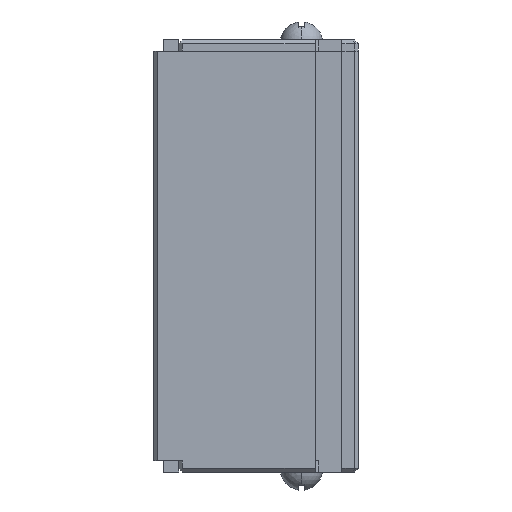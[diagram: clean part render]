
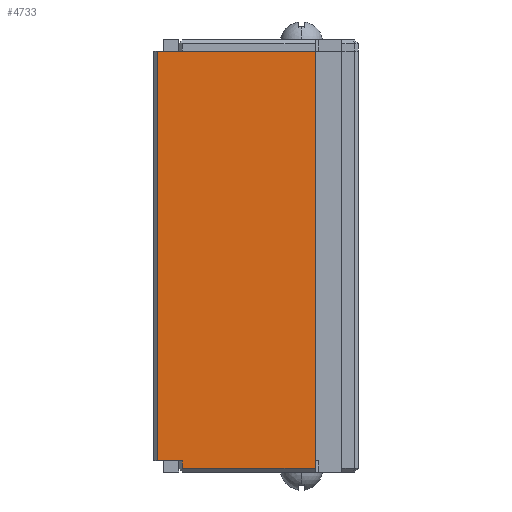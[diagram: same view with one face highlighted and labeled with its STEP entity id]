
A CAD part, left-side view. The second image highlights one B-rep face of the part: STEP entity #4733.
In plain terms, the highlighted planar face has unit normal (-1, 0, 0).
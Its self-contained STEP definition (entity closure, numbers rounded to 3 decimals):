
#513=DIRECTION('',(0.,1.,0.));
#514=VECTOR('',#513,20.8);
#515=CARTESIAN_POINT('',(-19.,-4.3,27.));
#516=LINE('',#515,#514);
#1021=DIRECTION('',(0.,-1.,0.));
#1022=VECTOR('',#1021,17.5);
#1023=CARTESIAN_POINT('',(-19.,13.2,-28.));
#1024=LINE('',#1023,#1022);
#1029=DIRECTION('',(0.,0.,1.));
#1030=VECTOR('',#1029,55.);
#1031=CARTESIAN_POINT('',(-19.,-4.3,-28.));
#1032=LINE('',#1031,#1030);
#1627=DIRECTION('',(0.,1.,0.));
#1628=VECTOR('',#1627,3.3);
#1629=CARTESIAN_POINT('',(-19.,13.2,-27.));
#1630=LINE('',#1629,#1628);
#1631=DIRECTION('',(0.,0.,-1.));
#1632=VECTOR('',#1631,1.);
#1633=CARTESIAN_POINT('',(-19.,13.2,-27.));
#1634=LINE('',#1633,#1632);
#1715=DIRECTION('',(0.,0.,-1.));
#1716=VECTOR('',#1715,54.);
#1717=CARTESIAN_POINT('',(-19.,16.5,27.));
#1718=LINE('',#1717,#1716);
#1841=CARTESIAN_POINT('',(-19.,16.5,-27.));
#1842=VERTEX_POINT('',#1841);
#1995=CARTESIAN_POINT('',(-19.,-4.3,27.));
#1996=VERTEX_POINT('',#1995);
#1997=CARTESIAN_POINT('',(-19.,16.5,27.));
#1998=VERTEX_POINT('',#1997);
#2103=CARTESIAN_POINT('',(-19.,13.2,-28.));
#2105=VERTEX_POINT('',#2103);
#2109=CARTESIAN_POINT('',(-19.,-4.3,-28.));
#2110=VERTEX_POINT('',#2109);
#2339=CARTESIAN_POINT('',(-19.,13.2,-27.));
#2340=VERTEX_POINT('',#2339);
#4718=CARTESIAN_POINT('',(-19.,16.5,-27.));
#4719=DIRECTION('',(-1.,0.,0.));
#4720=DIRECTION('',(0.,-1.,0.));
#4721=AXIS2_PLACEMENT_3D('',#4718,#4719,#4720);
#4722=PLANE('',#4721);
#4723=ORIENTED_EDGE('',*,*,#3305,.F.);
#4724=ORIENTED_EDGE('',*,*,#3291,.F.);
#4726=ORIENTED_EDGE('',*,*,#4725,.F.);
#4727=ORIENTED_EDGE('',*,*,#2454,.T.);
#4729=ORIENTED_EDGE('',*,*,#4728,.F.);
#4730=ORIENTED_EDGE('',*,*,#2839,.F.);
#4731=EDGE_LOOP('',(#4723,#4724,#4726,#4727,#4729,#4730));
#4732=FACE_OUTER_BOUND('',#4731,.F.);
#2454=EDGE_CURVE('',#2340,#1842,#1630,.T.);
#2839=EDGE_CURVE('',#1996,#1998,#516,.T.);
#3291=EDGE_CURVE('',#2105,#2110,#1024,.T.);
#3305=EDGE_CURVE('',#2110,#1996,#1032,.T.);
#4725=EDGE_CURVE('',#2340,#2105,#1634,.T.);
#4728=EDGE_CURVE('',#1998,#1842,#1718,.T.);
#4733=ADVANCED_FACE('',(#4732),#4722,.T.);
